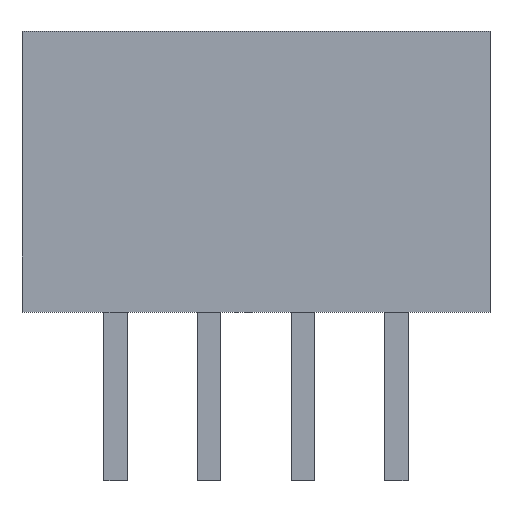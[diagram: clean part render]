
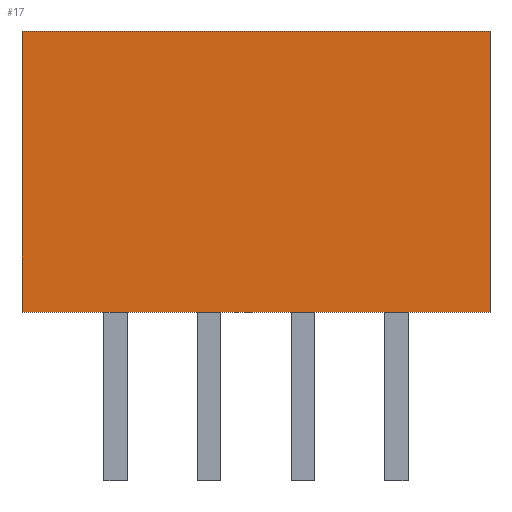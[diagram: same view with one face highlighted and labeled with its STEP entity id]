
A CAD part, left-side view. The second image highlights one B-rep face of the part: STEP entity #17.
In plain terms, the highlighted planar face has unit normal (-1, 0, 0).
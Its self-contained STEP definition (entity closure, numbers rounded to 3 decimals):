
#17 = ADVANCED_FACE('',(#18),#32,.F.);
#18 = FACE_BOUND('',#19,.F.);
#19 = EDGE_LOOP('',(#20,#55,#83,#111));
#20 = ORIENTED_EDGE('',*,*,#21,.F.);
#21 = EDGE_CURVE('',#22,#24,#26,.T.);
#22 = VERTEX_POINT('',#23);
#23 = CARTESIAN_POINT('',(0.,0.,0.));
#24 = VERTEX_POINT('',#25);
#25 = CARTESIAN_POINT('',(0.,0.,6.));
#26 = SURFACE_CURVE('',#27,(#31,#43),.PCURVE_S1.);
#27 = LINE('',#28,#29);
#28 = CARTESIAN_POINT('',(0.,0.,0.));
#29 = VECTOR('',#30,1.);
#30 = DIRECTION('',(0.,0.,1.));
#31 = PCURVE('',#32,#37);
#32 = PLANE('',#33);
#33 = AXIS2_PLACEMENT_3D('',#34,#35,#36);
#34 = CARTESIAN_POINT('',(0.,0.,0.));
#35 = DIRECTION('',(1.,0.,0.));
#36 = DIRECTION('',(0.,0.,1.));
#37 = DEFINITIONAL_REPRESENTATION('',(#38),#42);
#38 = LINE('',#39,#40);
#39 = CARTESIAN_POINT('',(0.,0.));
#40 = VECTOR('',#41,1.);
#41 = DIRECTION('',(1.,0.));
#42 = ( GEOMETRIC_REPRESENTATION_CONTEXT(2) 
PARAMETRIC_REPRESENTATION_CONTEXT() REPRESENTATION_CONTEXT('2D SPACE',''
  ) );
#43 = PCURVE('',#44,#49);
#44 = PLANE('',#45);
#45 = AXIS2_PLACEMENT_3D('',#46,#47,#48);
#46 = CARTESIAN_POINT('',(0.,0.,0.));
#47 = DIRECTION('',(0.,1.,0.));
#48 = DIRECTION('',(0.,0.,1.));
#49 = DEFINITIONAL_REPRESENTATION('',(#50),#54);
#50 = LINE('',#51,#52);
#51 = CARTESIAN_POINT('',(0.,0.));
#52 = VECTOR('',#53,1.);
#53 = DIRECTION('',(1.,0.));
#54 = ( GEOMETRIC_REPRESENTATION_CONTEXT(2) 
PARAMETRIC_REPRESENTATION_CONTEXT() REPRESENTATION_CONTEXT('2D SPACE',''
  ) );
#55 = ORIENTED_EDGE('',*,*,#56,.T.);
#56 = EDGE_CURVE('',#22,#57,#59,.T.);
#57 = VERTEX_POINT('',#58);
#58 = CARTESIAN_POINT('',(0.,10.,0.));
#59 = SURFACE_CURVE('',#60,(#64,#71),.PCURVE_S1.);
#60 = LINE('',#61,#62);
#61 = CARTESIAN_POINT('',(0.,0.,0.));
#62 = VECTOR('',#63,1.);
#63 = DIRECTION('',(0.,1.,0.));
#64 = PCURVE('',#32,#65);
#65 = DEFINITIONAL_REPRESENTATION('',(#66),#70);
#66 = LINE('',#67,#68);
#67 = CARTESIAN_POINT('',(0.,0.));
#68 = VECTOR('',#69,1.);
#69 = DIRECTION('',(0.,-1.));
#70 = ( GEOMETRIC_REPRESENTATION_CONTEXT(2) 
PARAMETRIC_REPRESENTATION_CONTEXT() REPRESENTATION_CONTEXT('2D SPACE',''
  ) );
#71 = PCURVE('',#72,#77);
#72 = PLANE('',#73);
#73 = AXIS2_PLACEMENT_3D('',#74,#75,#76);
#74 = CARTESIAN_POINT('',(0.,0.,0.));
#75 = DIRECTION('',(0.,0.,1.));
#76 = DIRECTION('',(1.,0.,0.));
#77 = DEFINITIONAL_REPRESENTATION('',(#78),#82);
#78 = LINE('',#79,#80);
#79 = CARTESIAN_POINT('',(0.,0.));
#80 = VECTOR('',#81,1.);
#81 = DIRECTION('',(0.,1.));
#82 = ( GEOMETRIC_REPRESENTATION_CONTEXT(2) 
PARAMETRIC_REPRESENTATION_CONTEXT() REPRESENTATION_CONTEXT('2D SPACE',''
  ) );
#83 = ORIENTED_EDGE('',*,*,#84,.T.);
#84 = EDGE_CURVE('',#57,#85,#87,.T.);
#85 = VERTEX_POINT('',#86);
#86 = CARTESIAN_POINT('',(0.,10.,6.));
#87 = SURFACE_CURVE('',#88,(#92,#99),.PCURVE_S1.);
#88 = LINE('',#89,#90);
#89 = CARTESIAN_POINT('',(0.,10.,0.));
#90 = VECTOR('',#91,1.);
#91 = DIRECTION('',(0.,0.,1.));
#92 = PCURVE('',#32,#93);
#93 = DEFINITIONAL_REPRESENTATION('',(#94),#98);
#94 = LINE('',#95,#96);
#95 = CARTESIAN_POINT('',(0.,-10.));
#96 = VECTOR('',#97,1.);
#97 = DIRECTION('',(1.,0.));
#98 = ( GEOMETRIC_REPRESENTATION_CONTEXT(2) 
PARAMETRIC_REPRESENTATION_CONTEXT() REPRESENTATION_CONTEXT('2D SPACE',''
  ) );
#99 = PCURVE('',#100,#105);
#100 = PLANE('',#101);
#101 = AXIS2_PLACEMENT_3D('',#102,#103,#104);
#102 = CARTESIAN_POINT('',(0.,10.,0.));
#103 = DIRECTION('',(0.,1.,0.));
#104 = DIRECTION('',(0.,0.,1.));
#105 = DEFINITIONAL_REPRESENTATION('',(#106),#110);
#106 = LINE('',#107,#108);
#107 = CARTESIAN_POINT('',(0.,0.));
#108 = VECTOR('',#109,1.);
#109 = DIRECTION('',(1.,0.));
#110 = ( GEOMETRIC_REPRESENTATION_CONTEXT(2) 
PARAMETRIC_REPRESENTATION_CONTEXT() REPRESENTATION_CONTEXT('2D SPACE',''
  ) );
#111 = ORIENTED_EDGE('',*,*,#112,.F.);
#112 = EDGE_CURVE('',#24,#85,#113,.T.);
#113 = SURFACE_CURVE('',#114,(#118,#125),.PCURVE_S1.);
#114 = LINE('',#115,#116);
#115 = CARTESIAN_POINT('',(0.,0.,6.));
#116 = VECTOR('',#117,1.);
#117 = DIRECTION('',(0.,1.,0.));
#118 = PCURVE('',#32,#119);
#119 = DEFINITIONAL_REPRESENTATION('',(#120),#124);
#120 = LINE('',#121,#122);
#121 = CARTESIAN_POINT('',(6.,0.));
#122 = VECTOR('',#123,1.);
#123 = DIRECTION('',(0.,-1.));
#124 = ( GEOMETRIC_REPRESENTATION_CONTEXT(2) 
PARAMETRIC_REPRESENTATION_CONTEXT() REPRESENTATION_CONTEXT('2D SPACE',''
  ) );
#125 = PCURVE('',#126,#131);
#126 = PLANE('',#127);
#127 = AXIS2_PLACEMENT_3D('',#128,#129,#130);
#128 = CARTESIAN_POINT('',(0.,0.,6.));
#129 = DIRECTION('',(0.,0.,1.));
#130 = DIRECTION('',(1.,0.,0.));
#131 = DEFINITIONAL_REPRESENTATION('',(#132),#136);
#132 = LINE('',#133,#134);
#133 = CARTESIAN_POINT('',(0.,0.));
#134 = VECTOR('',#135,1.);
#135 = DIRECTION('',(0.,1.));
#136 = ( GEOMETRIC_REPRESENTATION_CONTEXT(2) 
PARAMETRIC_REPRESENTATION_CONTEXT() REPRESENTATION_CONTEXT('2D SPACE',''
  ) );
